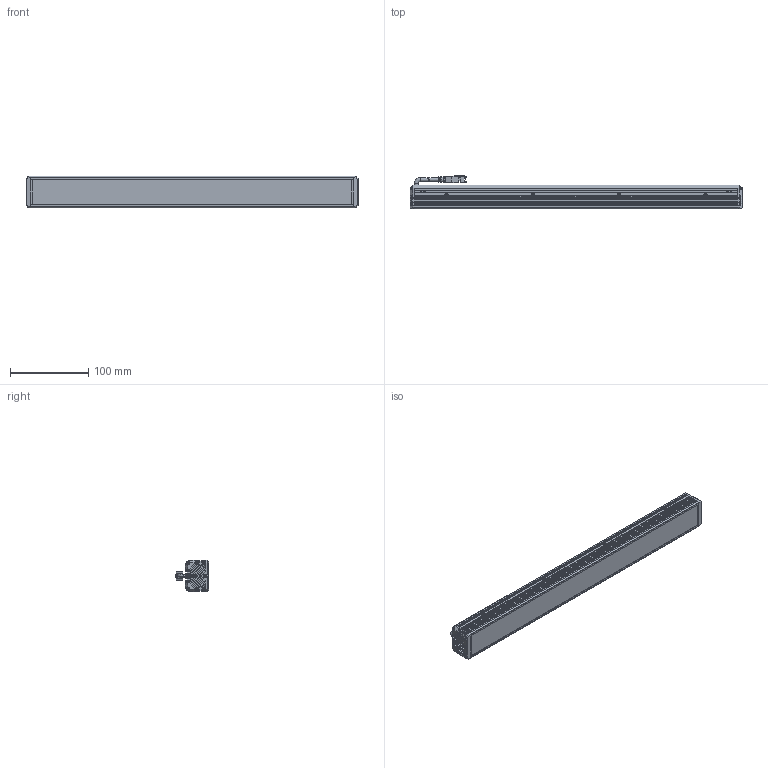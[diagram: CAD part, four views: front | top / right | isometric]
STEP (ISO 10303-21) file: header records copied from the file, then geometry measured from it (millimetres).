
FILE_DESCRIPTION((''),'2;1');
FILE_NAME('MV-LLDS-H-450-40-W-PL_ASM','2024-04-08T14:13:50',('huguozhe'),(''),'CREO PARAMETRIC BY PTC INC, 2020044','CREO PARAMETRIC BY PTC INC, 2020044','');
FILE_SCHEMA(('AUTOMOTIVE_DESIGN { 1 0 10303 214 1 1 1 1 }'));
Length unit declared in the file: millimetre
Products named in the file (15): DE-15-001194; DE-15-001193_ASM; DE-15-000502; DE-15-000501_ASM; DE-12-002350; TIP-M3X4-4_5X5-SO-ET-07061033; DE-12-002350_ASM; DE-12-001598; SC-KM2X6-BNI-GB819; XIANLAN_HEAD; CABLE_HEAD; CABLE_HEAD_ASM_ASM; 190100852; SC-PM2X6B-JMP; MV-LLDS-H-450-40-W-PL_ASM
Assembly tree (33 placements, depth 3):
  MV-LLDS-H-450-40-W-PL_ASM
    DE-15-001193_ASM
      DE-15-001194
    DE-15-000501_ASM
      DE-15-000502
    DE-12-002350_ASM  x2
      DE-12-002350
      TIP-M3X4-4_5X5-SO-ET-07061033
    DE-12-001598
    SC-KM2X6-BNI-GB819  x4
    CABLE_HEAD_ASM_ASM
      XIANLAN_HEAD
      CABLE_HEAD
    190100852  x8
    SC-PM2X6B-JMP  x8
Bounding box: 423 x 42.65 x 40 mm (x, y, z)
Volume: 393399.8 mm3; surface area: 203389.7 mm2
Topology: 31 solids, 67 shells, 2821 faces, 7293 edges, 4595 vertices
Faces by surface type: plane 1364, cylinder 589, bspline 472, cone 337, torus 50, sphere 8, extrusion 1
Entity records: 48886 total; most frequent: CARTESIAN_POINT 11377, ORIENTED_EDGE 6304, DIRECTION 6080, EDGE_CURVE 3184, VERTEX_POINT 2042, VECTOR 2036, LINE 2035, AXIS2_PLACEMENT_3D 2022
